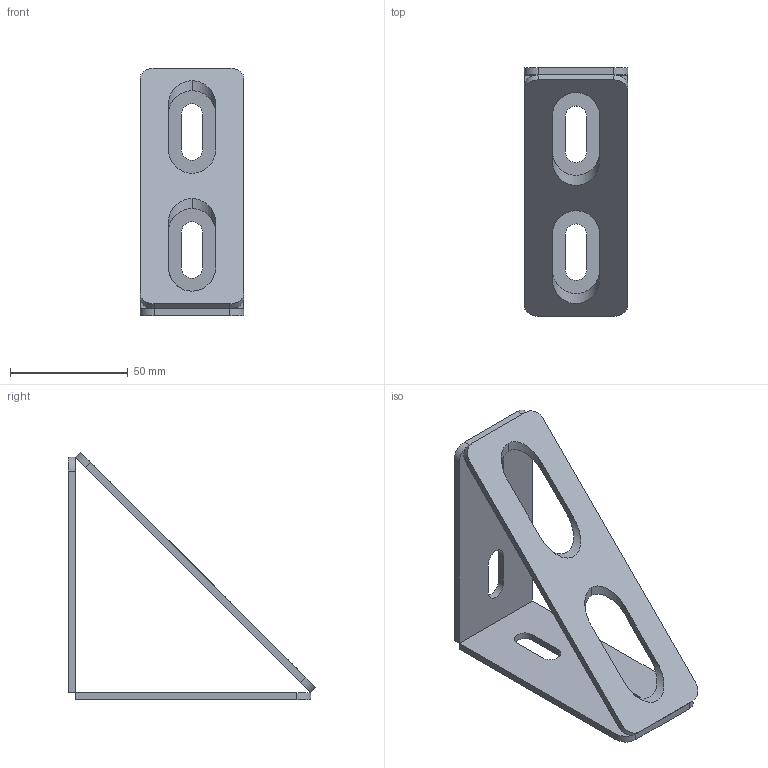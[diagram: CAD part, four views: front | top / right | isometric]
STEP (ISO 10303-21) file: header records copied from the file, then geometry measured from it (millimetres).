
FILE_DESCRIPTION (( 'STEP AP214' ), '1' );
FILE_NAME ('Ñáîðêà 8502.STEP', '2017-10-16T08:38:55', ( '' ), ( '' ), 'SwSTEP 2.0', 'SolidWorks 2014', '' );
FILE_SCHEMA (( 'AUTOMOTIVE_DESIGN' ));
Length unit declared in the file: millimetre
Products named in the file (6): 8502 - 1; 栖闉罻 8502; 8502 - 2
Assembly tree (3 placements, depth 2):
  8502 - 1
  8502 - 1
  栖闉罻 8502
    8502 - 1  x2
    8502 - 2
  8502 - 2
Bounding box: 44 x 105.12 x 105.12 mm (x, y, z)
Volume: 36927.2 mm3; surface area: 28919.8 mm2
Topology: 3 solids, 3 shells, 52 faces, 138 edges, 92 vertices
Faces by surface type: plane 30, cylinder 22
Entity records: 1294 total; most frequent: CARTESIAN_POINT 242, ORIENTED_EDGE 192, DIRECTION 190, EDGE_CURVE 96, VECTOR 64, VERTEX_POINT 64, LINE 64, AXIS2_PLACEMENT_3D 63
